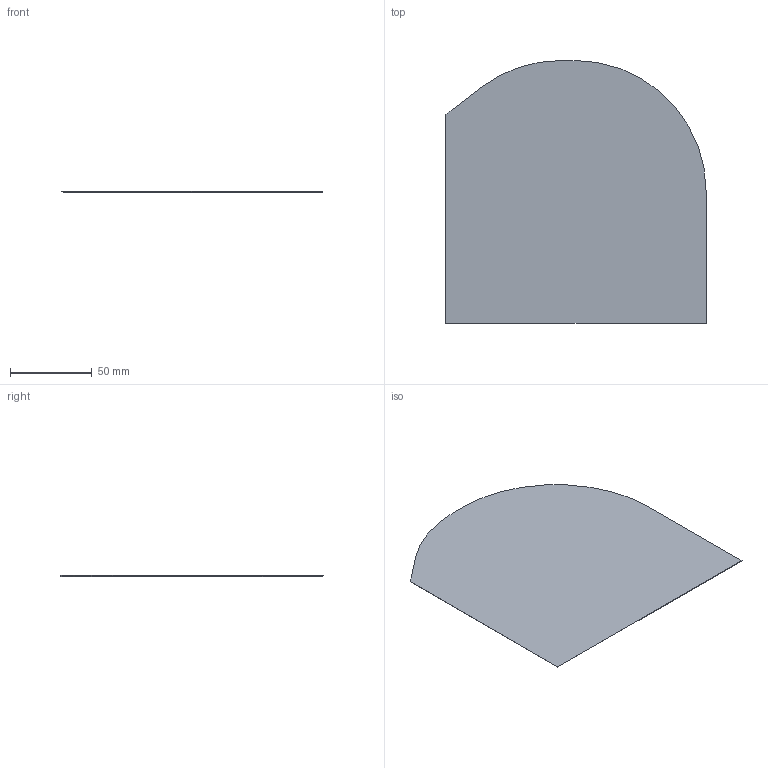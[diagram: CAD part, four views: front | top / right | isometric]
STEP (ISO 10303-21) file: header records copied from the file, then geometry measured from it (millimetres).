
FILE_DESCRIPTION(('STEP AP203'), '1');
FILE_NAME('麧罻 3', '', ('UNSPECIFIED'), ('UNSPECIFIED'), 'ASCON STEP Converter 1.3', 'ASCON Math Kernel', '');
FILE_SCHEMA(('CONFIG_CONTROL_DESIGN'));
Length unit declared in the file: millimetre
Bounding box: 158.84 x 160.44 x 0.8 mm (x, y, z)
Volume: 18574.7 mm3; surface area: 46985.6 mm2
Topology: 1 solids, 1 shells, 10 faces, 24 edges, 16 vertices
Faces by surface type: plane 7, cylinder 3
Entity records: 418 total; most frequent: CARTESIAN_POINT 54, DIRECTION 51, ORIENTED_EDGE 48, EDGE_CURVE 24, AXIS2_PLACEMENT_3D 17, LINE 17, VECTOR 17, VERTEX_POINT 16
